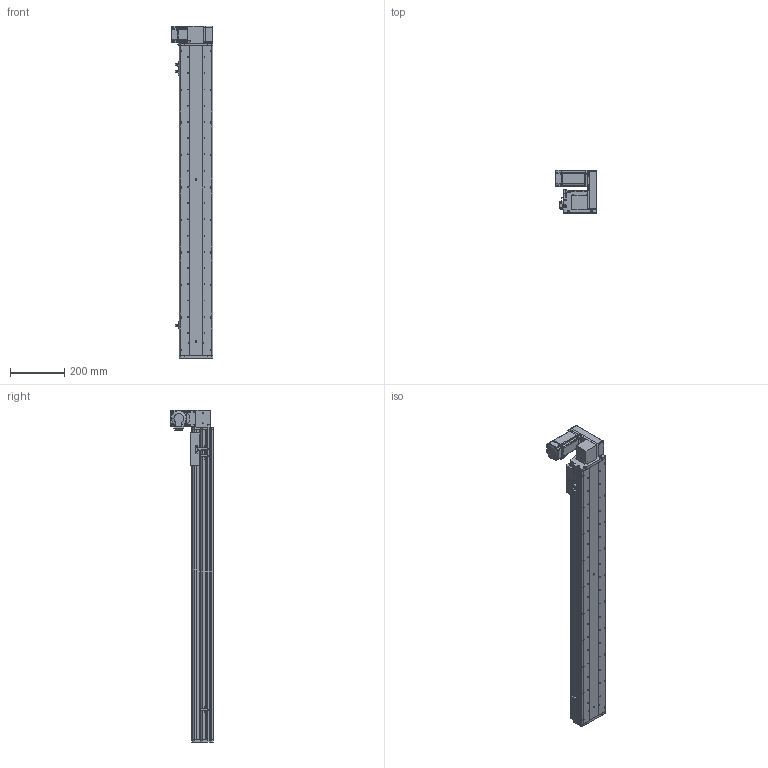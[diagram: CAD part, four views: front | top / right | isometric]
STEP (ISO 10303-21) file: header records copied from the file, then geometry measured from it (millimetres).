
FILE_DESCRIPTION (( 'STEP AP214' ), '1' );
FILE_NAME ('KSD125B-S950-MLU-CM.STEP', '2017-10-21T03:27:01', ( '微软用户' ), ( '微软中国' ), 'SwSTEP 2.0', 'SolidWorks 2014', '' );
FILE_SCHEMA (( 'AUTOMOTIVE_DESIGN' ));
Length unit declared in the file: millimetre
Products named in the file (17): 125模组同步带-尾端板1; KSD125模组同步带-滑动座1; KSD125B-S950-MLU-CM; 悵誘欶奻狟殏; 100宽马达安装板连板上下折丝杆同步带; HTPA30S3M150_A_H6_a佪裝蚚; HTPA30S3M150_A_H6_a萇儂蚚; 100宽马达安装板同步带左; KSD125模组950行程同步带-防尘盖; 125模组950行程同步带-底板; MHMD042G1CA_2_03; KSD125模组同步带-防撞垫2; 覜茼え68遵圉猾敕; U倰嫖萇假蚾璃; U倰嫖萇EEㄜSX672; KSD125模组同步带-防撞垫1; 前端板-125宽模组同步带
Assembly tree (20 placements, depth 2):
  KSD125B-S950-MLU-CM
    KSD125模组同步带-滑动座1
    125模组同步带-尾端板1
    前端板-125宽模组同步带
    KSD125模组同步带-防撞垫1
    U倰嫖萇EEㄜSX672  x3
    U倰嫖萇假蚾璃  x3
    覜茼え68遵圉猾敕
    KSD125模组同步带-防撞垫2
    MHMD042G1CA_2_03
    125模组950行程同步带-底板
    KSD125模组950行程同步带-防尘盖
    100宽马达安装板同步带左
    HTPA30S3M150_A_H6_a萇儂蚚
    HTPA30S3M150_A_H6_a佪裝蚚
    100宽马达安装板连板上下折丝杆同步带
    悵誘欶奻狟殏
Bounding box: 155 x 157.5 x 1227 mm (x, y, z)
Volume: 3791744.7 mm3; surface area: 1278728.7 mm2
Topology: 19 solids, 22 shells, 2307 faces, 6685 edges, 4418 vertices
Faces by surface type: cylinder 1452, plane 728, cone 105, bspline 22
Entity records: 82151 total; most frequent: CARTESIAN_POINT 16215, DIRECTION 12770, ORIENTED_EDGE 11890, EDGE_CURVE 6023, AXIS2_PLACEMENT_3D 4941, VERTEX_POINT 4010, LINE 2888, VECTOR 2888
